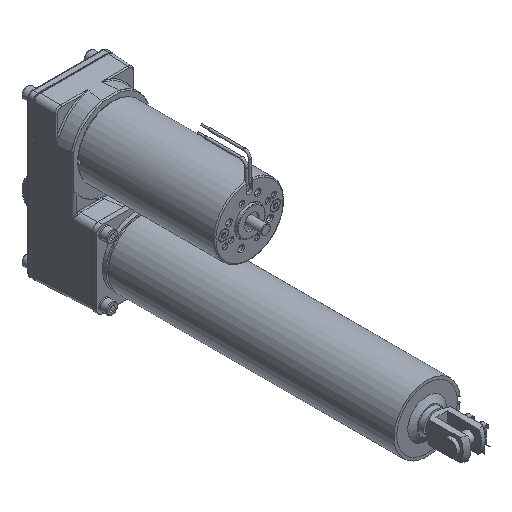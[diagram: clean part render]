
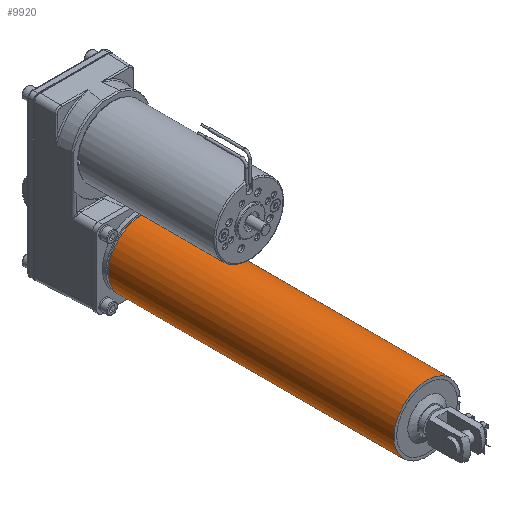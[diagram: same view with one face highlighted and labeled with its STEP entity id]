
A CAD part, isometric view. The second image highlights one B-rep face of the part: STEP entity #9920.
In plain terms, the highlighted cylindrical face has radius 30 mm (diameter 60 mm), a partial arc.
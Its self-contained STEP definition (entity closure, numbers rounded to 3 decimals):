
#432=CYLINDRICAL_SURFACE('',#11640,30.);
#1081=LINE('',#18175,#1752);
#1082=LINE('',#18176,#1753);
#1752=VECTOR('',#14358,1000.);
#1753=VECTOR('',#14359,1000.);
#4039=ORIENTED_EDGE('',*,*,#5657,.F.);
#4040=ORIENTED_EDGE('',*,*,#5658,.T.);
#4041=ORIENTED_EDGE('',*,*,#5620,.T.);
#4042=ORIENTED_EDGE('',*,*,#5659,.T.);
#5620=EDGE_CURVE('',#6652,#6653,#7259,.T.);
#5657=EDGE_CURVE('',#6680,#6681,#7276,.T.);
#5658=EDGE_CURVE('',#6680,#6652,#1081,.T.);
#5659=EDGE_CURVE('',#6653,#6681,#1082,.F.);
#6652=VERTEX_POINT('',#18099);
#6653=VERTEX_POINT('',#18100);
#6680=VERTEX_POINT('',#18173);
#6681=VERTEX_POINT('',#18174);
#7259=CIRCLE('',#11615,30.);
#7276=CIRCLE('',#11641,30.);
#8094=EDGE_LOOP('',(#4039,#4040,#4041,#4042));
#8959=FACE_BOUND('',#8094,.T.);
#9920=ADVANCED_FACE('',(#8959),#432,.T.);
#11615=AXIS2_PLACEMENT_3D('',#18098,#14284,#14285);
#11640=AXIS2_PLACEMENT_3D('',#18171,#14354,#14355);
#11641=AXIS2_PLACEMENT_3D('',#18172,#14356,#14357);
#14284=DIRECTION('',(0.,1.,0.));
#14285=DIRECTION('',(1.,0.,0.));
#14354=DIRECTION('',(0.,-1.,0.));
#14355=DIRECTION('',(0.,0.,-1.));
#14356=DIRECTION('',(0.,1.,0.));
#14357=DIRECTION('',(0.,0.,1.));
#14358=DIRECTION('',(0.,-1.,0.));
#14359=DIRECTION('',(0.,-1.,0.));
#18098=CARTESIAN_POINT('',(0.,0.,0.));
#18099=CARTESIAN_POINT('',(29.906,0.,-2.375));
#18100=CARTESIAN_POINT('',(29.906,0.,2.375));
#18171=CARTESIAN_POINT('',(0.,275.,0.));
#18172=CARTESIAN_POINT('',(0.,259.1,0.));
#18173=CARTESIAN_POINT('',(29.906,259.1,-2.375));
#18174=CARTESIAN_POINT('',(29.906,259.1,2.375));
#18175=CARTESIAN_POINT('',(29.906,275.,-2.375));
#18176=CARTESIAN_POINT('',(29.906,275.,2.375));
